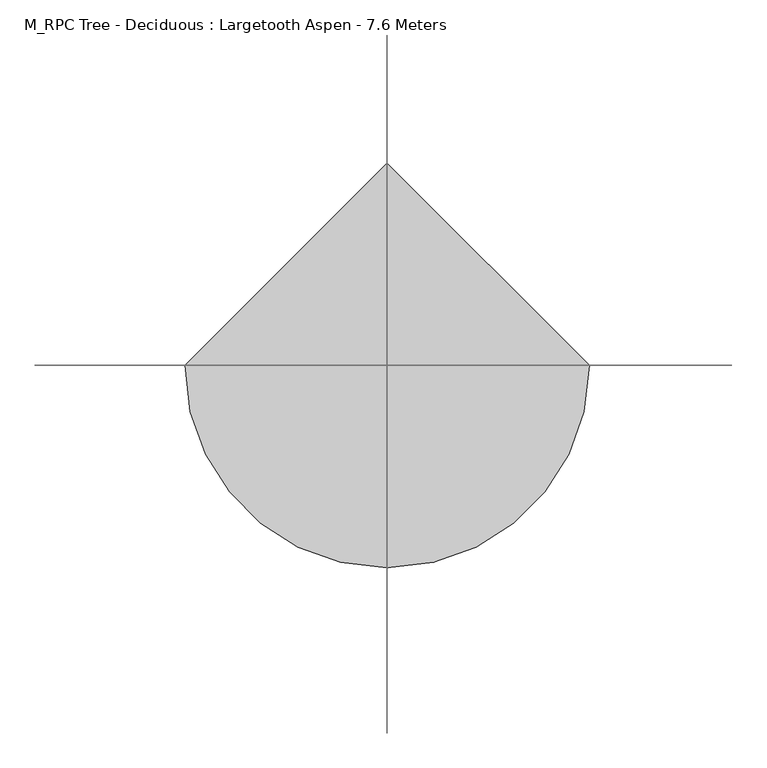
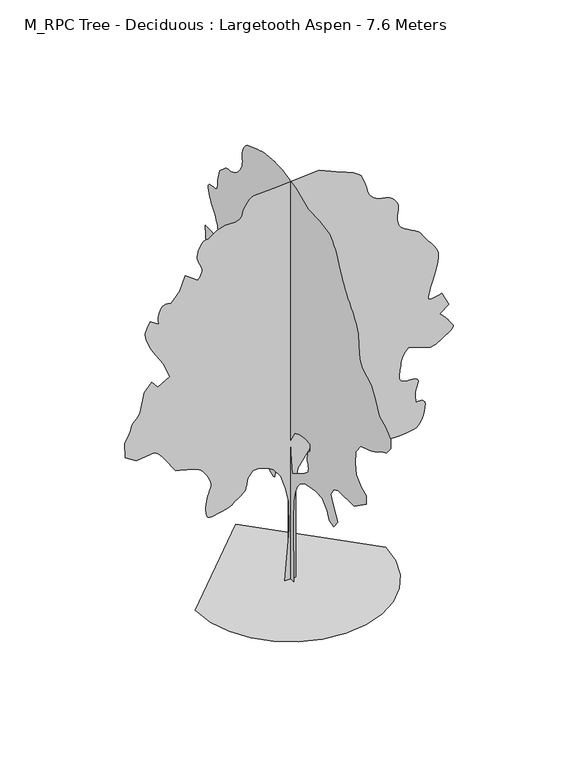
"""IFC4 building model written with IfcOpenShell, lengths in millimetres: geographic element geometry, M_RPC Tree - Deciduous : Largetooth Aspen - 7.6 Meters."""

from ifc_helpers import new_model, si_unit, origin, place, context, project, spatial, triangles, source, transform, mapped, element, save


def m_rpc_tree_deciduous_largetooth_aspen_7_6_meters_7a32e79d(model_context):
    return source(origin(), model_context, "Body", "Tessellation", [
        triangles([(92.8617737, 0.000406, 0.005513), (-103.915959, 0.000406, 0.005513), (-22.8901635, 0.0003494, 949.168154), (-34.4652064, 0.0003176, 1481.626133), (-92.3406663, 0.0003011, 1759.4311237), (-173.3674883, 0.0002866, 2002.5093098), (-300.6937099, 0.0002762, 2176.1362118), (-404.8693279, 0.0002728, 2234.0127663), (-566.9214277, 0.0002694, 2291.8891754), (-682.6743914, 0.0002694, 2291.8891754), (-763.7004776, 0.0002762, 2176.1362118), (-798.427355, 0.0002852, 2025.6589142), (-801.2950579, 0.0002863, 2008.1460297), (-806.4934324, 0.0002874, 1989.7185207), (-816.3455927, 0.0002886, 1969.4722275), (-833.1871519, 0.0002899, 1946.489764), (-859.3387533, 0.0002915, 1919.8644997), (-897.1360102, 0.0002934, 1888.6816647), (-948.9046526, 0.0002956, 1852.0320122), (-998.3097038, 0.0002977, 1817.003627), (-1032.3247061, 0.0002993, 1790.0718407), (-1058.2431822, 0.0003005, 1769.4200489), (-1083.3510246, 0.0003015, 1753.2220551), (-1114.9365967, 0.0003023, 1739.6560226), (-1160.2933485, 0.000303, 1726.8980804), (-1226.7072453, 0.0003038, 1713.1294441), (-1299.8367931, 0.0003048, 1697.5064152), (-1361.0192505, 0.0003056, 1683.0943588), (-1411.0653236, 0.0003062, 1673.9516029), (-1450.7854282, 0.0003062, 1674.1187439), (-1480.9902706, 0.0003054, 1687.6517841), (-1502.4856155, 0.0003035, 1718.5964069), (-1516.0869656, 0.0003004, 1771.0059986), (-1522.0251205, 0.0002967, 1833.4045155), (-1521.0802654, 0.0002932, 1891.7521168), (-1514.8710514, 0.00029, 1946.2541679), (-1505.0164204, 0.0002869, 1997.1108021), (-1493.1376396, 0.0002841, 2044.5246231), (-1480.8535057, 0.0002815, 2088.6983803), (-1469.7852859, 0.000279, 2129.8371483), (-1458.1775642, 0.0002769, 2165.8103886), (-1444.9485752, 0.000275, 2196.5194153), (-1432.7328964, 0.0002733, 2225.2042923), (-1424.1600185, 0.0002715, 2255.1052288), (-1421.8648098, 0.0002695, 2289.4596725), (-1428.479377, 0.000267, 2331.5079781), (-1446.6358269, 0.0002638, 2384.4900639), (-1473.3978561, 0.0002604, 2441.7913628), (-1503.3976238, 0.0002573, 2494.2338013), (-1535.6266159, 0.0002545, 2541.2094223), (-1569.0690514, 0.0002521, 2582.1229134), (-1602.7142361, 0.00025, 2616.3228607), (-1635.5487144, 0.0002484, 2643.2520309), (-1666.5644085, 0.0002473, 2662.3026123), (-1701.7269424, 0.0002464, 2677.1732162), (-1746.6125748, 0.0002455, 2692.0694), (-1799.5946606, 0.0002446, 2706.940004), (-1859.0570194, 0.0002437, 2721.8358971), (-1923.3782387, 0.0002428, 2736.706501), (-1990.9396671, 0.000242, 2751.5773956), (-2060.1198921, 0.0002411, 2766.4732887), (-2256.8962532, 0.0002238, 3055.8556252), (-2301.7818855, 0.0002202, 3116.5289566), (-2338.160479, 0.0002175, 3161.4195305), (-2367.4508423, 0.0002156, 3193.1367805), (-2391.0741096, 0.0002144, 3214.3154297), (-2410.4440029, 0.0002136, 3227.61549), (-2426.9816563, 0.0002131, 3235.6461044), (-2442.1006462, 0.0002128, 3241.041996), (-2766.1945267, 0.0002148, 3206.3353935), (-2962.9836777, 0.0002073, 3333.6607613), (-2974.5611687, 0.0001914, 3599.8884064), (-2952.3436295, 0.000189, 3639.5351143), (-2930.8612198, 0.0001867, 3678.9789276), (-2910.7717484, 0.0001843, 3718.0431129), (-2892.8103447, 0.0001821, 3756.473616), (-2877.7118477, 0.0001798, 3794.0937035), (-2866.1343567, 0.0001776, 3830.70019), (-2858.8132919, 0.0001755, 3866.1160515), (-2847.3878265, 0.0001735, 3899.5814507), (-2825.6772331, 0.0001716, 3931.2481224), (-2797.4559906, 0.0001698, 3962.0787987), (-2766.6000252, 0.0001679, 3993.137368), (-2736.9852631, 0.000166, 4025.3865623), (-2712.4120537, 0.000164, 4059.8905609), (-2696.7560326, 0.0001617, 4097.611805), (-2627.2919586, 0.000141, 4444.881015), (-2488.4021805, 0.0001321, 4595.3354942), (-2384.2240917, 0.0001396, 4468.0101265), (-2164.2955101, 0.0001327, 4583.7835831), (-2280.0484737, 0.0001155, 4873.1406303), (-2465.2501053, 9.82e-05, 5162.5226761), (-2487.5231644, 9.58e-05, 5203.6643509), (-2513.0364326, 9.27e-05, 5254.9385468), (-2539.3601166, 8.93e-05, 5312.268187), (-2564.0600624, 8.58e-05, 5371.6238663), (-2584.7067673, 8.24e-05, 5428.9535065), (-2598.8934013, 7.93e-05, 5480.2277023), (-2604.1628471, 7.69e-05, 5521.3693771), (-2601.4519661, 7.48e-05, 5555.7463486), (-2593.9027176, 7.28e-05, 5589.5413788), (-2582.2746483, 7.08e-05, 5622.8038834), (-2567.4293335, 6.89e-05, 5655.6611801), (-2550.1521904, 6.69e-05, 5688.2394241), (-2531.2585762, 6.5e-05, 5720.5903564), (-2511.5516396, 6.31e-05, 5752.8651306), (-2361.0744873, 6.93e-05, 5648.6941635), (-2365.8675087, 6.73e-05, 5681.019516), (-2369.6472198, 6.54e-05, 5713.8518143), (-2371.4003105, 6.34e-05, 5747.6968414), (-2370.118412, 6.13e-05, 5783.0621246), (-2364.7857433, 5.9e-05, 5820.4540283), (-2354.391465, 5.67e-05, 5860.3794983), (-2337.9248829, 5.41e-05, 5903.344899), (-2316.394075, 5.19e-05, 5940.9141174), (-2291.8258072, 5.04e-05, 5965.7155106), (-2264.7268799, 4.95e-05, 5979.8768555), (-2235.6036575, 4.92e-05, 5985.5515091), (-2204.9604698, 4.92e-05, 5984.8422501), (-2173.3064426, 4.95e-05, 5979.8768555), (-2141.1459057, 5e-05, 5972.7836838), (-1990.6686081, 3.96e-05, 6146.4178528), (-1886.4929901, 2.44e-05, 6401.0685883), (-1666.5644085, 3.41e-05, 6239.0110382), (-1644.4939533, 3.23e-05, 6268.8284042), (-1623.9409927, 3.05e-05, 6298.823085), (-1606.4256374, 2.87e-05, 6329.2229736), (-1593.4675621, 2.69e-05, 6360.2309647), (-1586.584552, 2.5e-05, 6392.0749512), (-1587.2913403, 2.3e-05, 6424.9066681), (-1597.1131245, 2.1e-05, 6458.9551712), (-1613.1085144, 1.89e-05, 6493.7885101), (-1630.1173599, 1.68e-05, 6529.2043716), (-1646.3154991, 1.46e-05, 6565.8614365), (-1659.8813862, 1.23e-05, 6604.3428085), (-1668.993766, 9.9e-06, 6645.2310104), (-1671.8286221, 7.3e-06, 6689.1585617), (-1666.5644085, 4.4e-06, 6736.759726), (-1653.9432312, 1.5e-06, 6785.3747818), (-1636.4607227, -1.2e-06, 6830.974324), (-1614.9300602, -3.6e-06, 6871.9131042), (-1590.1616592, -5.7e-06, 6906.5691284), (-1562.9612846, -7.3e-06, 6933.3209839), (-1534.1394974, -8.3e-06, 6950.5728378), (-1504.512236, -8.7e-06, 6956.6782791), (-1471.3382435, -9.2e-06, 6965.0132355), (-1431.8891979, -1.05e-05, 6986.521225), (-1386.9707188, -1.22e-05, 7015.9078033), (-1337.3959831, -1.41e-05, 7047.9291046), (-1283.9756973, -1.59e-05, 7077.315683), (-1227.5178062, -1.72e-05, 7098.8236725), (-1168.8306908, -1.77e-05, 7107.1580475), (-1109.0314339, -1.76e-05, 7106.8289978), (-1050.4481638, -1.77e-05, 7107.2847839), (-995.7104439, -1.79e-05, 7110.8060806), (-947.4530697, -1.84e-05, 7119.5718246), (-908.3055319, -1.94e-05, 7135.8353668), (-880.9024807, -2.09e-05, 7161.8273849), (-867.8760956, -2.32e-05, 7199.7512329), (-856.9422426, -2.61e-05, 7248.5941818), (-835.6824938, -2.93e-05, 7302.6809967), (-806.5264246, -3.26e-05, 7357.4009125), (-771.9008492, -3.56e-05, 7408.0420074), (-734.2403572, -3.81e-05, 7449.9940979), (-695.9718355, -3.98e-05, 7478.5696793), (-659.5247869, -4.04e-05, 7489.1341507), (-323.8458215, -4.18e-05, 7512.2885513), (509.5693688, -4.53e-05, 7570.1751343), (926.2744205, -3.42e-05, 7384.9631836), (995.3532709, -3.26e-05, 7357.5526474), (1062.2079111, -3.09e-05, 7329.4578506), (1124.6038118, -2.92e-05, 7299.9195374), (1180.3219225, -2.73e-05, 7268.2778641), (1227.1277138, -2.52e-05, 7233.7741562), (1262.7970482, -2.29e-05, 7195.7485703), (1285.1055702, -2.04e-05, 7153.4674301), (1299.9533558, -1.79e-05, 7111.9461273), (1314.5985374, -1.58e-05, 7075.1117477), (1328.8409821, -1.37e-05, 7040.4813034), (1342.4753242, -1.16e-05, 7005.6479645), (1355.2991055, -9.4e-06, 6968.1799026), (1367.1094311, -6.8e-06, 6925.6702881), (1377.7063133, -3.9e-06, 6875.662294), (1393.5345623, -8e-07, 6823.9573105), (1419.2834267, 2e-06, 6778.1292938), (1452.117905, 4.3e-06, 6738.3811386), (1489.2059029, 6.3e-06, 6704.890741), (1527.709948, 7.9e-06, 6677.9109924), (1564.7979458, 9.1e-06, 6657.5936279), (1597.6348949, 9.9e-06, 6644.1415421), (1628.0070236, 1.04e-05, 6636.0856384), (1659.1872425, 1.07e-05, 6630.6638763), (1690.5726814, 1.1e-05, 6626.2310074), (1721.5527672, 1.13e-05, 6621.2150345), (1751.5195427, 1.17e-05, 6613.9439667), (1779.8675217, 1.24e-05, 6602.8481323), (1805.9862762, 1.34e-05, 6586.2799576), (1831.2638031, 1.47e-05, 6563.7586578), (1856.5388592, 1.63e-05, 6536.6015945), (1880.3977226, 1.82e-05, 6505.7964981), (1901.4218754, 2.02e-05, 6472.3560974), (1918.1949795, 2.23e-05, 6437.2948654), (1929.2986622, 2.44e-05, 6401.625531), (1933.3139694, 2.65e-05, 6366.3364059), (1929.8053173, 2.9e-05, 6325.1191544), (1922.245895, 3.2e-05, 6273.1351181), (1915.0916805, 3.56e-05, 6213.8805954), (1912.7964718, 3.93e-05, 6150.775145), (1919.8163921, 4.31e-05, 6087.2644867), (1940.6048035, 4.67e-05, 6026.7937592), (1979.615649, 5e-05, 5972.7836838), (2034.2165314, 5.26e-05, 5927.5631882), (2096.1082478, 5.5e-05, 5888.8289246), (2161.2403187, 5.71e-05, 5853.1340103), (2225.5615379, 5.92e-05, 5817.0088898), (2285.0238968, 6.16e-05, 5777.0584213), (2335.5764797, 6.44e-05, 5729.8118866), (2373.1711327, 6.79e-05, 5671.8491455), (2411.6423309, 7.17e-05, 5607.2240204), (2462.6659607, 7.56e-05, 5541.7878983), (2518.9567108, 7.96e-05, 5474.7303635), (2573.2307236, 8.38e-05, 5405.2415817), (2618.1721664, 8.81e-05, 5332.5093933), (2646.5201454, 9.27e-05, 5255.7495438), (2650.9785942, 9.76e-05, 5174.1004578), (2634.6386032, 0.0001032, 5079.7841217), (2608.190799, 0.0001097, 4970.8762344), (2575.6628426, 0.0001165, 4855.508567), (2541.0826859, 0.0001233, 4741.7367325), (2508.5625778, 0.0001295, 4637.6927925), (2482.1043091, 0.0001347, 4551.4835197), (2465.7718758, 0.0001383, 4491.1648178), (2464.9611694, 0.0001404, 4454.9635391), (2480.5538223, 0.0001417, 4433.9369156), (2509.8113388, 0.0001422, 4425.5769608), (2550.0001648, 0.0001421, 4427.3248192), (2598.3867462, 0.0001415, 4436.6727951), (2652.2453773, 0.0001407, 4451.0876129), (2708.839888, 0.0001396, 4468.0101265), (2836.1652557, 0.0001548, 4213.3596817), (2674.1332855, 0.0001624, 4086.0346046), (2698.8841003, 0.0001637, 4063.6400414), (2723.4573097, 0.0001651, 4040.7132431), (2747.6253113, 0.0001665, 4016.7987144), (2771.1852104, 0.0001681, 3991.3386406), (2793.9346939, 0.0001697, 3963.8775261), (2815.6705765, 0.0001715, 3933.8828453), (2836.1652557, 0.0001735, 3900.8482338), (2858.1037422, 0.0001754, 3868.6749069), (2881.2584335, 0.000177, 3840.554821), (2901.1705902, 0.0001786, 3814.8921432), (2913.3811821, 0.0001801, 3790.0148827), (2913.4570496, 0.0001816, 3764.3269157), (2896.9144547, 0.0001833, 3736.2324097), (2859.3199471, 0.0001852, 3704.0590828), (2604.6695023, 0.0001955, 3530.4246231), (2500.4962097, 0.0001962, 3518.8471321), (2118.5182171, 0.0001886, 3646.1724998), (2091.3836815, 0.0001903, 3618.7110947), (2065.163625, 0.000192, 3590.1352226), (2040.7651142, 0.0001938, 3559.3298355), (2019.0975414, 0.0001958, 3525.1551773), (2001.0780018, 0.0001981, 3486.5726486), (1987.6134167, 0.0002008, 3442.3913338), (1979.615649, 0.0002038, 3391.5220551), (1974.0473843, 0.0002068, 3342.1474525), (1967.6684132, 0.0002092, 3301.2848305), (1961.0868382, 0.0002113, 3266.096862), (1954.9106163, 0.0002132, 3233.7209312), (1949.7477047, 0.0002151, 3201.3702896), (1946.2035896, 0.0002172, 3166.1567413), (1944.888699, 0.0002197, 3125.2941193), (1953.8643139, 0.000222, 3086.7368797), (1977.0163891, 0.0002236, 3059.0981598), (2008.6704163, 0.0002247, 3040.5542336), (2043.1591541, 0.0002254, 3029.3316628), (2074.8131813, 0.0002257, 3023.5555618), (2097.9652565, 0.0002259, 3021.4277847), (2106.9408714, 0.0002259, 3021.1237335), (2119.5973663, 0.0002258, 3022.0103073), (2151.4869896, 0.0002258, 3022.4663841), (2193.5021576, 0.000226, 3019.2997169), (2236.5307812, 0.0002266, 3009.242482), (2271.4578644, 0.0002278, 2989.0771431), (2289.1759689, 0.0002298, 2955.5102966), (2280.5702442, 0.0002328, 2905.3758568), (2259.8146797, 0.0002362, 2847.8691925), (2246.3500946, 0.0002394, 2794.0105614), (2238.9578133, 0.0002425, 2743.191861), (2236.4270084, 0.0002453, 2694.7799904), (2237.5416206, 0.0002481, 2648.2174255), (2241.0857357, 0.0002508, 2602.8707748), (2245.8434395, 0.0002535, 2558.1069374), (2285.1910378, 0.0002532, 2562.540097), (2322.5171024, 0.0002531, 2563.730722), (2355.7899261, 0.0002535, 2558.4106979), (2382.9903008, 0.0002544, 2543.4133575), (2402.0916058, 0.000256, 2515.4278564), (2411.0672207, 0.0002587, 2471.2540993), (2407.8954666, 0.0002625, 2407.6396683), (2395.1731327, 0.0002668, 2334.9507912), (2376.983836, 0.0002708, 2266.9155544), (2353.5301804, 0.0002745, 2205.3632069), (2325.0124443, 0.0002777, 2152.110062), (2291.638464, 0.0002803, 2108.9801365), (2253.6054657, 0.0002821, 2077.7999176), (2211.1189602, 0.0002832, 2060.3858643), (2171.2620907, 0.0002837, 2051.7801395), (2137.4826118, 0.000284, 2045.4011684), (2104.5113686, 0.0002843, 2040.64361), (2067.0864727, 0.0002845, 2036.8967457), (2019.9412399, 0.0002847, 2033.5578506), (1957.8137821, 0.000285, 2030.0137356), (1875.4374149, 0.0002852, 2025.6589142), (1785.9069786, 0.0002851, 2027.1105698), (1704.880965, 0.0002844, 2040.1039627), (1630.9407108, 0.000283, 2062.7139198), (1562.6724941, 0.0002812, 2093.0175934), (1498.6551807, 0.0002791, 2129.0947517), (1437.4727234, 0.0002767, 2169.0176056), (1377.7063133, 0.0002742, 2210.8631618), (1123.0508543, 0.0002597, 2453.9412025), (856.8231365, 0.0002528, 2569.6841377), (544.2937391, 0.0002542, 2546.5547356), (393.8164052, 0.0002611, 2430.7917435), (289.6407872, 0.00027, 2280.3144459), (127.5871523, 0.0002838, 2048.8109894), (92.8617737, 0.0003011, 1759.4311237), (92.8617737, 0.0003383, 1134.3723289), (-0.0023646, 90.6053344, 1.1e-05), (-0.0023646, -94.5971056, 0.0), (-0.0023646, -83.0220672, 1157.5168465), (-0.0023646, -94.5971056, 1527.9227257), (-0.0023646, -140.8980313, 1724.6992321), (-0.0023646, -210.3490428, 1875.1765297), (-0.0023646, -302.9508941, 1990.9294933), (-0.0023646, -441.853444, 2071.9555069), (-0.0023646, -557.6038642, 2095.1051113), (-0.0023646, -789.1072117, 2141.4067909), (-0.0023646, -985.8861889, 2129.8320614), (-0.0023646, -1136.3635592, 1979.3547638), (-0.0023646, -1205.8147705, 1840.4521957), (-0.0023646, -1333.1399929, 1794.1505161), (-0.0023646, -1472.042561, 1967.7774181), (-0.0023646, -1321.5652634, 2199.2833454), (-0.0023646, -1252.1139793, 2361.3353725), (-0.0023646, -1333.1399929, 2500.2354698), (-0.0023646, -1483.6172905, 2569.6841377), (-0.0023646, -1969.7736626, 2569.6841377), (-0.0023646, -2351.7542713, 2835.9117828), (-0.0023646, -2351.7542713, 2997.9690422), (-0.0023646, -2189.7022442, 3067.4075363), (-0.0023646, -2039.2249466, 3206.3101044), (-0.0023646, -2004.5006126, 3403.0992554), (-0.0023646, -2027.6500717, 3634.5950089), (-0.0023646, -2178.1273693, 3831.3841599), (-0.0023646, -2444.3551598, 3923.9773453), (-0.0023646, -2488.9367409, 3941.4068047), (-0.0023646, -2533.110498, 3959.1147354), (-0.0023646, -2576.4735489, 3977.4307686), (-0.0023646, -2618.6279526, 3996.6839539), (-0.0023646, -2659.1612343, 4017.1280548), (-0.0023646, -2697.6678955, 4039.0921211), (-0.0023646, -2733.7427284, 4062.8799133), (-0.0023646, -2768.4493309, 4086.3386559), (-0.0023646, -2803.1812225, 4107.3652794), (-0.0023646, -2837.9131142, 4126.3652824), (-0.0023646, -2872.6450058, 4143.7438728), (-0.0023646, -2907.351899, 4159.9065491), (-0.0023646, -2942.0837906, 4175.258519), (-0.0023646, -2976.8156822, 4190.2052811), (-0.0023646, -3104.14105, 4352.2622498), (-0.0023646, -3104.14105, 4514.3195091), (-0.0023646, -2953.6609909, 4653.2220772), (-0.0023646, -2756.8971291, 4757.3927536), (-0.0023646, -2629.5467628, 5000.4657074), (-0.0023646, -2502.234185, 5185.6776581), (-0.0023646, -2224.4291943, 5336.1574265), (-0.0023646, -2143.4030354, 5463.4827942), (-0.0023646, -2120.2509602, 5718.1329483), (-0.0023646, -2097.1013557, 5926.4743011), (-0.0023646, -2072.264645, 5978.4327576), (-0.0023646, -2047.225185, 6029.4540619), (-0.0023646, -2021.7779011, 6078.651059), (-0.0023646, -1995.7251308, 6125.1127579), (-0.0023646, -1968.8641251, 6167.9514221), (-0.0023646, -1940.9873383, 6206.2043198), (-0.0023646, -1911.8997242, 6239.0110382), (-0.0023646, -1875.8225658, 6277.7964615), (-0.0023646, -1830.2327614, 6330.9455429), (-0.0023646, -1779.7788643, 6393.0121033), (-0.0023646, -1729.1274502, 6458.4988037), (-0.0023646, -1682.9270725, 6521.9844635), (-0.0023646, -1645.83922, 6577.9705811), (-0.0023646, -1622.5198586, 6620.9865601), (-0.0023646, -1605.6807701, 6657.1372604), (-0.0023646, -1585.6016178, 6696.1255783), (-0.0023646, -1563.2930958, 6737.9253525), (-0.0023646, -1539.7736012, 6782.5877426), (-0.0023646, -1516.0490318, 6830.0627518), (-0.0023646, -1493.1350235, 6880.3742157), (-0.0023646, -1472.042561, 6933.5238785), (-0.0023646, -1448.8245014, 6986.749118), (-0.0023646, -1419.5316673, 7037.5425293), (-0.0023646, -1385.1772236, 7086.3087387), (-0.0023646, -1346.7743351, 7133.4541168), (-0.0023646, -1305.3316612, 7179.3832901), (-0.0023646, -1261.8673084, 7224.5020477), (-0.0023646, -1217.3895727, 7269.2155975), (-0.0023646, -893.2828297, 7327.0766006), (-0.0023646, -546.029062, 7338.653801), (-0.0023646, -175.623419, 7500.711351), (-0.0023646, 264.2314734, 7593.3045364), (-0.0023646, 323.6937959, 7595.7363647), (-0.0023646, 382.7508379, 7597.8647232), (-0.0023646, 440.9996807, 7599.3843979), (-0.0023646, 498.0300296, 7599.9925003), (-0.0023646, 553.4441254, 7599.3843979), (-0.0023646, 606.831528, 7597.2566208), (-0.0023646, 657.7895004, 7593.3045364), (-0.0023646, 706.7891985, 7588.2379852), (-0.0023646, 754.9781902, 7582.5883301), (-0.0023646, 802.9670488, 7575.698053), (-0.0023646, 851.3612606, 7566.9828873), (-0.0023646, 900.7663118, 7555.8620544), (-0.0023646, 951.7900869, 7541.6751297), (-0.0023646, 1005.0433044, 7523.8657516), (-0.0023646, 1340.7248497, 7408.1181656), (-0.0023646, 1370.3545818, 7383.1138779), (-0.0023646, 1399.173753, 7356.8689682), (-0.0023646, 1426.3741276, 7328.2166473), (-0.0023646, 1451.1425285, 7295.9418732), (-0.0023646, 1472.6733364, 7258.7778625), (-0.0023646, 1490.1558449, 7215.5595703), (-0.0023646, 1502.7768768, 7165.019632), (-0.0023646, 1507.1292274, 7116.7342072), (-0.0023646, 1503.5851124, 7077.7714691), (-0.0023646, 1497.0060081, 7043.2421814), (-0.0023646, 1492.2458336, 7008.3076859), (-0.0023646, 1494.1711521, 6968.1293243), (-0.0023646, 1507.6358826, 6917.7916992), (-0.0023646, 1537.5012108, 6852.5078934), (-0.0023646, 1578.4019119, 6786.1851974), (-0.0023646, 1620.9238804, 6734.4546341), (-0.0023646, 1663.8485859, 6694.8587952), (-0.0023646, 1705.9652012, 6664.9908508), (-0.0023646, 1746.0576668, 6642.4189728), (-0.0023646, 1782.9075977, 6624.7107513), (-0.0023646, 1815.3063469, 6609.4093597), (-0.0023646, 1845.0703732, 6598.3135254), (-0.0023646, 1874.8345448, 6592.8923447), (-0.0023646, 1904.598571, 6590.2826202), (-0.0023646, 1934.3652134, 6587.699057), (-0.0023646, 1964.129385, 6582.2522964), (-0.0023646, 1993.8935566, 6571.1558807), (-0.0023646, 2023.6575829, 6551.5483566), (-0.0023646, 2197.2869556, 6401.0685883), (-0.0023646, 2266.7357689, 6181.1500351), (-0.0023646, 2264.4760231, 6146.5445892), (-0.0023646, 2263.5310226, 6112.7751389), (-0.0023646, 2265.2182743, 6080.6021027), (-0.0023646, 2270.8549942, 6050.8858932), (-0.0023646, 2281.7533115, 6024.3875107), (-0.0023646, 2299.23582, 6001.9417877), (-0.0023646, 2324.612178, 5984.3608841), (-0.0023646, 2359.9116222, 5974.3033585), (-0.0023646, 2402.9047829, 5970.5285889), (-0.0023646, 2448.5301956, 5967.9700241), (-0.0023646, 2491.7284309, 5961.5605316), (-0.0023646, 2527.4306122, 5946.2341415), (-0.0023646, 2550.5826874, 5916.9237213), (-0.0023646, 2556.1056061, 5868.6127167), (-0.0023646, 2547.4416, 5812.448703), (-0.0023646, 2532.0896301, 5762.3651321), (-0.0023646, 2511.1641632, 5717.3475311), (-0.0023646, 2485.7878052, 5676.3837524), (-0.0023646, 2457.0700813, 5638.4599045), (-0.0023646, 2426.1228424, 5602.562677), (-0.0023646, 2394.0634621, 5567.6531799), (-0.0023646, 2369.3610455, 5525.4987762), (-0.0023646, 2345.2664406, 5483.4705276), (-0.0023646, 2322.3854244, 5441.6201752), (-0.0023646, 2301.3284248, 5400.0732925), (-0.0023646, 2282.698312, 5358.9321991), (-0.0023646, 2267.1081299, 5318.2974701), (-0.0023646, 2255.160894, 5278.2708435), (-0.0023646, 2248.9518253, 5240.6254669), (-0.0023646, 2249.4254883, 5206.6025436), (-0.0023646, 2255.4649452, 5175.6201324), (-0.0023646, 2265.9605255, 5147.0695496), (-0.0023646, 2279.797617, 5120.3426926), (-0.0023646, 2295.861462, 5094.8320404), (-0.0023646, 2313.0374485, 5069.9294907), (-0.0023646, 2463.5147461, 5093.0844727), (-0.0023646, 2648.7240807, 5093.0844727), (-0.0023646, 2625.5693893, 4757.3927536), (-0.0023646, 2417.2130665, 4398.5716324), (-0.0023646, 2409.7574169, 4356.4422272), (-0.0023646, 2402.1979946, 4314.642453), (-0.0023646, 2394.4358231, 4273.4252014), (-0.0023646, 2386.3697456, 4233.1451019), (-0.0023646, 2377.898315, 4194.0559181), (-0.0023646, 2368.9227001, 4156.486409), (-0.0023646, 2359.3391281, 4120.7664963), (-0.0023646, 2344.9953815, 4082.1586784), (-0.0023646, 2323.9712288, 4037.2681046), (-0.0023646, 2299.5044083, 3988.3492882), (-0.0023646, 2274.8373093, 3937.5814568), (-0.0023646, 2253.2051994, 3887.2441223), (-0.0023646, 2237.8507587, 3839.5162216), (-0.0023646, 2232.0114349, 3796.6522682), (-0.0023646, 2236.7360012, 3758.6522621), (-0.0023646, 2249.9651356, 3723.6921867), (-0.0023646, 2270.279884, 3691.2656776), (-0.0023646, 2296.2641991, 3660.865789), (-0.0023646, 2326.5020336, 3631.9602859), (-0.0023646, 2359.5747242, 3604.0936729), (-0.0023646, 2394.0634621, 3576.7337151), (-0.0023646, 2706.5853745, 3646.1724998), (-0.0023646, 2723.8372284, 3596.6458717), (-0.0023646, 2740.3798233, 3547.4991623), (-0.0023646, 2755.5039001, 3499.1884483), (-0.0023646, 2768.4746201, 3452.0686501), (-0.0023646, 2778.6333023, 3406.5699738), (-0.0023646, 2785.245108, 3363.0979179), (-0.0023646, 2787.6266487, 3322.0832703), (-0.0023646, 2774.199852, 3282.9940865), (-0.0023646, 2739.6958534, 3244.7153183), (-0.0023646, 2692.8545265, 3206.6647339), (-0.0023646, 2642.3654572, 3168.1836525), (-0.0023646, 2596.9426483, 3128.7142593), (-0.0023646, 2565.3015564, 3087.5981644), (-0.0023646, 2556.1056061, 3044.2784248), (-0.0023646, 2564.4399811, 3002.6556747), (-0.0023646, 2578.8547989, 2966.5049744), (-0.0023646, 2598.3361679, 2934.9397499), (-0.0023646, 2621.8454887, 2906.9969788), (-0.0023646, 2648.4200294, 2881.7903778), (-0.0023646, 2676.9959015, 2858.3825043), (-0.0023646, 2706.5853745, 2835.9117828), (-0.0023646, 2776.0491577, 2604.4160294), (-0.0023646, 2709.3974121, 2602.1106468), (-0.0023646, 2644.6708397, 2600.945311), (-0.0023646, 2583.7949043, 2601.984201), (-0.0023646, 2528.6796638, 2606.3667824), (-0.0023646, 2481.2656975, 2615.2081032), (-0.0023646, 2443.468586, 2629.6226303), (-0.0023646, 2417.2130665, 2650.725412), (-0.0023646, 2391.9710026, 2676.8694557), (-0.0023646, 2357.0109272, 2705.4453278), (-0.0023646, 2313.9494568, 2736.0478203), (-0.0023646, 2264.407568, 2768.2973053), (-0.0023646, 2210.0068188, 2801.7371246), (-0.0023646, 2152.3684765, 2835.987941), (-0.0023646, 2093.1088669, 2870.6436745), (-0.0023646, 2090.6465172, 2833.3785072), (-0.0023646, 2088.2828533, 2795.8345779), (-0.0023646, 2086.1244095, 2757.6572571), (-0.0023646, 2084.2675461, 2718.5680733), (-0.0023646, 2082.8158905, 2678.2879738), (-0.0023646, 2081.8710354, 2636.4626198), (-0.0023646, 2081.5341373, 2592.838829), (-0.0023646, 2079.9481876, 2547.390731), (-0.0023646, 2074.514217, 2502.7332825), (-0.0023646, 2064.2212406, 2462.5418404), (-0.0023646, 2048.0560936, 2430.4471424), (-0.0023646, 2025.0077911, 2410.0995472), (-0.0023646, 1994.0631683, 2405.1366234), (-0.0023646, 1954.2062988, 2419.2093109), (-0.0023646, 1909.2219807, 2445.3635284), (-0.0023646, 1863.6321762, 2473.9469582), (-0.0023646, 1817.5331005, 2504.5546829), (-0.0023646, 1771.028817, 2536.7762627), (-0.0023646, 1724.222953, 2570.216082), (-0.0023646, 1677.2144852, 2604.4921875), (-0.0023646, 1630.1020992, 2639.147921), (-0.0023646, 1352.2995792, 2720.1639061), (-0.0023646, 1074.4945158, 2627.5707207), (-0.0023646, 900.8676138, 2419.2093109), (-0.0023646, 923.2420475, 2389.5794334), (-0.0023646, 945.9203871, 2360.7602623), (-0.0023646, 969.204213, 2333.5598877), (-0.0023646, 993.4000471, 2308.7916321), (-0.0023646, 1018.8119408, 2287.2608242), (-0.0023646, 1045.7412563, 2269.7783157), (-0.0023646, 1074.4945158, 2257.1572838), (-0.0023646, 1101.897567, 2244.8731499), (-0.0023646, 1125.0471714, 2228.3381126), (-0.0023646, 1144.6551315, 2208.258815), (-0.0023646, 1161.4257648, 2185.344952), (-0.0023646, 1176.07349, 2160.305492), (-0.0023646, 1189.3025517, 2133.8473686), (-0.0023646, 1201.8222816, 2106.6798409), (-0.0023646, 1169.4919149, 2099.1888737), (-0.0023646, 1136.6574366, 2091.3938553), (-0.0023646, 1102.8070318, 2082.9907345), (-0.0023646, 1067.4417486, 2073.6756054), (-0.0023646, 1030.0497723, 2063.1471783), (-0.0023646, 990.1269911, 2051.0986404), (-0.0023646, 947.1668226, 2037.2287022), (-0.0023646, 904.2091249, 2020.3237747), (-0.0023646, 864.2863438, 1999.7708141), (-0.0023646, 826.8943674, 1976.1830097), (-0.0023646, 791.5265408, 1950.1630863), (-0.0023646, 757.6786795, 1922.3217625), (-0.0023646, 724.8442011, 1893.2645245), (-0.0023646, 692.5138344, 1863.6018002), (-0.0023646, 692.5138344, 1701.5496277), (-0.0023646, 650.5998957, 1674.7216141), (-0.0023646, 610.2059223, 1650.6246838), (-0.0023646, 572.8469018, 1631.9970417), (-0.0023646, 540.0453429, 1621.5699165), (-0.0023646, 513.3187039, 1622.0765717), (-0.0023646, 494.1844431, 1636.2505611), (-0.0023646, 484.160055, 1666.8252937), (-0.0023646, 479.2682024, 1701.4811726), (-0.0023646, 474.7791232, 1728.6487003), (-0.0023646, 471.1007504, 1752.1706657), (-0.0023646, 468.638328, 1775.8927643), (-0.0023646, 467.7947385, 1803.6682491), (-0.0023646, 468.9752624, 1839.3374382), (-0.0023646, 472.5852528, 1886.7512592), (-0.0023646, 475.5214108, 1938.6212036), (-0.0023646, 474.812079, 1985.6298168), (-0.0023646, 471.0677945, 2028.5899853), (-0.0023646, 464.8915363, 2068.3100899), (-0.0023646, 456.893805, 2105.6006916), (-0.0023646, 447.6800869, 2141.2724968), (-0.0023646, 437.8608825, 2176.1311249), (-0.0023646, 241.0823958, 2187.7059998), (-0.0023646, 136.90626, 1990.9294933), (-0.0023646, 79.030296, 1655.2479481), (-0.0023646, 79.030296, 1226.9681305), (-0.0023646, 79.030296, 590.3344972), (-0.0022449, -48.2969385, 2025.6538273), (-0.0022449, -1.9959556, 2396.0597065), (-0.0022449, 9.5791323, 2615.9935204), (-0.0022449, -129.3229929, 2835.9117828), (-0.0022449, -279.801326, 2905.3758568), (-0.0022449, -453.4282099, 2928.5049683), (-0.0022449, -615.4803097, 2928.5049683), (-0.0022449, -615.4803097, 2789.62798), (-0.0022449, -534.4542598, 2720.1639061), (-0.0022449, -511.3046917, 2558.1069374), (-0.0022449, -521.1568156, 2548.0241226), (-0.0022449, -530.6061298, 2536.9282883), (-0.0022449, -539.2448104, 2523.7927528), (-0.0022449, -546.6699749, 2507.6277512), (-0.0022449, -552.4738358, 2487.4115433), (-0.0022449, -556.2535832, 2462.1366325), (-0.0022449, -557.6038642, 2430.7841858), (-0.0022449, -554.2294335, 2398.4207542), (-0.0022449, -544.7801193, 2370.3109875), (-0.0022449, -530.2691955, 2345.7427197), (-0.0022449, -511.7075014, 2324.0093079), (-0.0022449, -490.1108545, 2304.4038185), (-0.0022449, -466.4875508, 2286.2145218), (-0.0022449, -441.853444, 2268.7320133), (-1707.3661331, 0.0, 0.0031185), (-1662.2297894, -391.2146745, 0.0030952), (-1533.678479, -750.4840605, 0.0030738), (-1332.01012, -1067.5126745, 0.0030549), (-1067.5126745, -1332.01012, 0.0030391), (-750.4840605, -1533.678479, 0.0030271), (-391.2146745, -1662.2297894, 0.0030194), (7.48e-05, -1707.3661331, 0.0030167), (391.2146745, -1662.2297894, 0.0030194), (750.4840605, -1533.678479, 0.0030271), (1067.5126745, -1332.01012, 0.0030391), (1332.01012, -1067.5126745, 0.0030549), (1533.678479, -750.4840605, 0.0030738), (1662.2297894, -391.2146745, 0.0030952), (1707.3661331, 0.0001493, 0.0031185), (-0.0002245, 1707.3661331, 0.0032203)], [[122, 123, 124], [87, 88, 89], [1, 2, 3], [329, 1, 3], [329, 3, 4], [328, 329, 4], [328, 4, 5], [105, 106, 107], [327, 328, 5], [327, 5, 6], [104, 105, 107], [238, 239, 240], [238, 240, 241], [237, 238, 241], [236, 237, 241], [103, 104, 107], [86, 87, 89], [235, 236, 241], [102, 103, 107], [101, 102, 107], [100, 101, 107], [99, 100, 107], [98, 99, 107], [97, 98, 107], [96, 97, 107], [327, 6, 7], [326, 327, 7], [95, 96, 107], [70, 71, 72], [69, 70, 72], [69, 72, 73], [69, 73, 74], [69, 74, 75], [69, 75, 76], [69, 76, 77], [69, 77, 78], [94, 95, 107], [234, 235, 241], [93, 94, 107], [69, 78, 79], [69, 79, 80], [69, 80, 81], [69, 81, 82], [69, 82, 83], [69, 83, 84], [69, 84, 85], [68, 69, 85], [325, 326, 7], [325, 7, 8], [67, 68, 85], [92, 93, 107], [91, 92, 107], [60, 61, 62], [67, 85, 86], [67, 86, 89], [67, 89, 90], [66, 67, 90], [65, 66, 90], [64, 65, 90], [63, 64, 90], [62, 63, 90], [60, 62, 90], [59, 60, 90], [58, 59, 90], [57, 58, 90], [56, 57, 90], [55, 56, 90], [54, 55, 90], [53, 54, 90], [284, 285, 286], [283, 284, 286], [282, 283, 286], [282, 286, 287], [281, 282, 287], [280, 281, 287], [279, 280, 287], [279, 287, 288], [278, 279, 288], [277, 278, 288], [277, 288, 289], [276, 277, 289], [275, 276, 289], [275, 289, 290], [52, 53, 90], [325, 8, 9], [121, 122, 124], [275, 290, 291], [30, 31, 32], [29, 30, 32], [29, 32, 33], [28, 29, 33], [28, 33, 34], [27, 28, 34], [27, 34, 35], [27, 35, 36], [26, 27, 36], [26, 36, 37], [26, 37, 38], [25, 26, 38], [25, 38, 39], [24, 25, 39], [23, 24, 39], [22, 23, 39], [21, 22, 39], [20, 21, 39], [20, 39, 40], [20, 40, 41], [20, 41, 42], [19, 20, 42], [19, 42, 43], [18, 19, 43], [18, 43, 44], [17, 18, 44], [16, 17, 44], [15, 16, 44], [14, 15, 44], [13, 14, 44], [12, 13, 44], [11, 12, 44], [11, 44, 45], [11, 45, 46], [10, 11, 46], [10, 46, 47], [10, 47, 48], [10, 48, 49], [10, 49, 50], [10, 50, 51], [252, 253, 254], [251, 252, 254], [251, 254, 255], [250, 251, 255], [249, 250, 255], [249, 255, 256], [248, 249, 256], [247, 248, 256], [246, 247, 256], [245, 246, 256], [245, 256, 257], [245, 257, 258], [244, 245, 258], [243, 244, 258], [242, 243, 258], [241, 242, 258], [234, 241, 258], [233, 234, 258], [274, 275, 291], [324, 325, 9], [51, 52, 90], [10, 51, 90], [9, 10, 90], [324, 9, 90], [323, 324, 90], [323, 90, 91], [323, 91, 107], [323, 107, 108], [323, 108, 109], [323, 109, 110], [323, 110, 111], [323, 111, 112], [323, 112, 113], [323, 113, 114], [323, 114, 115], [323, 115, 116], [323, 116, 117], [323, 117, 118], [323, 118, 119], [323, 119, 120], [323, 120, 121], [323, 121, 124], [323, 124, 125], [323, 125, 126], [323, 126, 127], [323, 127, 128], [323, 128, 129], [322, 323, 129], [322, 129, 130], [167, 168, 169], [274, 291, 292], [296, 297, 298], [296, 298, 299], [295, 296, 299], [294, 295, 299], [294, 299, 300], [293, 294, 300], [293, 300, 301], [293, 301, 302], [293, 302, 303], [293, 303, 304], [293, 304, 305], [293, 305, 306], [293, 306, 307], [293, 307, 308], [293, 308, 309], [293, 309, 310], [293, 310, 311], [293, 311, 312], [293, 312, 313], [293, 313, 314], [293, 314, 315], [293, 315, 316], [293, 316, 317], [293, 317, 318], [293, 318, 319], [292, 293, 319], [274, 292, 319], [274, 319, 320], [274, 320, 321], [274, 321, 322], [273, 274, 322], [273, 322, 130], [272, 273, 130], [271, 272, 130], [270, 271, 130], [269, 270, 130], [268, 269, 130], [267, 268, 130], [266, 267, 130], [265, 266, 130], [264, 265, 130], [263, 264, 130], [262, 263, 130], [261, 262, 130], [260, 261, 130], [259, 260, 130], [258, 259, 130], [233, 258, 130], [232, 233, 130], [231, 232, 130], [230, 231, 130], [229, 230, 130], [228, 229, 130], [227, 228, 130], [226, 227, 130], [225, 226, 130], [224, 225, 130], [223, 224, 130], [222, 223, 130], [221, 222, 130], [220, 221, 130], [219, 220, 130], [218, 219, 130], [217, 218, 130], [216, 217, 130], [215, 216, 130], [214, 215, 130], [213, 214, 130], [212, 213, 130], [211, 212, 130], [210, 211, 130], [209, 210, 130], [208, 209, 130], [207, 208, 130], [206, 207, 130], [205, 206, 130], [204, 205, 130], [203, 204, 130], [202, 203, 130], [201, 202, 130], [200, 201, 130], [199, 200, 130], [198, 199, 130], [197, 198, 130], [196, 197, 130], [195, 196, 130], [194, 195, 130], [193, 194, 130], [192, 193, 130], [191, 192, 130], [190, 191, 130], [189, 190, 130], [188, 189, 130], [187, 188, 130], [186, 187, 130], [185, 186, 130], [184, 185, 130], [183, 184, 130], [182, 183, 130], [181, 182, 130], [180, 181, 130], [179, 180, 130], [178, 179, 130], [177, 178, 130], [176, 177, 130], [175, 176, 130], [174, 175, 130], [173, 174, 130], [172, 173, 130], [171, 172, 130], [170, 171, 130], [169, 170, 130], [167, 169, 130], [167, 130, 131], [167, 131, 132], [167, 132, 133], [167, 133, 134], [167, 134, 135], [167, 135, 136], [164, 165, 166], [164, 166, 167], [163, 164, 167], [162, 163, 167], [161, 162, 167], [160, 161, 167], [159, 160, 167], [158, 159, 167], [143, 144, 145], [142, 143, 145], [141, 142, 145], [140, 141, 145], [140, 145, 146], [139, 140, 146], [138, 139, 146], [137, 138, 146], [136, 137, 146], [136, 146, 147], [136, 147, 148], [136, 148, 149], [136, 149, 150], [136, 150, 151], [136, 151, 152], [136, 152, 153], [136, 153, 154], [136, 154, 155], [136, 155, 156], [157, 158, 167], [157, 167, 136], [157, 136, 156], [634, 330, 635], [633, 634, 635], [632, 633, 635], [631, 632, 635], [540, 541, 542], [592, 593, 594], [494, 495, 496], [635, 330, 331], [635, 331, 332], [635, 332, 333], [635, 333, 334], [635, 334, 335], [658, 635, 335], [658, 335, 336], [658, 336, 337], [658, 337, 338], [540, 542, 543], [657, 658, 338], [631, 635, 636], [630, 631, 636], [518, 519, 520], [656, 657, 338], [656, 338, 339], [655, 656, 339], [654, 655, 339], [653, 654, 339], [540, 543, 544], [539, 540, 544], [518, 520, 521], [539, 544, 545], [538, 539, 545], [538, 545, 546], [538, 546, 547], [538, 547, 548], [537, 538, 548], [537, 548, 549], [536, 537, 549], [536, 549, 550], [536, 550, 551], [535, 536, 551], [535, 551, 552], [534, 535, 552], [493, 494, 496], [493, 496, 497], [343, 344, 345], [342, 343, 345], [341, 342, 345], [340, 341, 345], [340, 345, 346], [534, 552, 553], [533, 534, 553], [518, 521, 522], [350, 351, 352], [349, 350, 352], [349, 352, 353], [348, 349, 353], [533, 553, 554], [652, 653, 339], [518, 522, 523], [518, 523, 524], [533, 554, 555], [532, 533, 555], [518, 524, 525], [518, 525, 526], [518, 526, 527], [518, 527, 528], [518, 528, 529], [518, 529, 530], [518, 530, 531], [518, 531, 532], [518, 532, 555], [517, 518, 555], [516, 517, 555], [515, 516, 555], [607, 608, 609], [591, 592, 594], [591, 594, 595], [590, 591, 595], [590, 595, 596], [589, 590, 596], [588, 589, 596], [588, 596, 597], [587, 588, 597], [586, 587, 597], [586, 597, 598], [585, 586, 598], [585, 598, 599], [584, 585, 599], [584, 599, 600], [583, 584, 600], [583, 600, 601], [582, 583, 601], [514, 515, 555], [643, 644, 645], [630, 636, 637], [629, 630, 637], [581, 582, 601], [581, 601, 602], [348, 353, 354], [580, 581, 602], [580, 602, 603], [579, 580, 603], [651, 652, 339], [651, 339, 340], [651, 340, 346], [650, 651, 346], [649, 650, 346], [649, 346, 347], [648, 649, 347], [647, 648, 347], [646, 647, 347], [372, 373, 374], [371, 372, 374], [370, 371, 374], [369, 370, 374], [369, 374, 375], [368, 369, 375], [367, 368, 375], [366, 367, 375], [365, 366, 375], [364, 365, 375], [363, 364, 375], [362, 363, 375], [361, 362, 375], [360, 361, 375], [359, 360, 375], [358, 359, 375], [357, 358, 375], [356, 357, 375], [356, 375, 376], [356, 376, 377], [356, 377, 378], [645, 646, 347], [643, 645, 347], [642, 643, 347], [641, 642, 347], [641, 347, 348], [641, 348, 354], [641, 354, 355], [607, 609, 610], [513, 514, 555], [579, 603, 604], [607, 610, 611], [607, 611, 612], [607, 612, 613], [607, 613, 614], [607, 614, 615], [607, 615, 616], [607, 616, 617], [607, 617, 618], [607, 618, 619], [607, 619, 620], [607, 620, 621], [607, 621, 622], [607, 622, 623], [607, 623, 624], [606, 607, 624], [606, 624, 625], [605, 606, 625], [605, 625, 626], [604, 605, 626], [579, 604, 626], [579, 626, 627], [579, 627, 628], [579, 628, 629], [579, 629, 637], [578, 579, 637], [578, 637, 638], [355, 356, 378], [641, 355, 378], [641, 378, 379], [640, 641, 379], [639, 640, 379], [639, 379, 380], [639, 380, 381], [639, 381, 382], [639, 382, 383], [639, 383, 384], [639, 384, 385], [639, 385, 386], [639, 386, 387], [639, 387, 388], [639, 388, 389], [639, 389, 390], [639, 390, 391], [639, 391, 392], [639, 392, 393], [639, 393, 394], [639, 394, 395], [638, 639, 395], [578, 638, 395], [577, 578, 395], [577, 395, 396], [577, 396, 397], [577, 397, 398], [577, 398, 399], [577, 399, 400], [577, 400, 401], [577, 401, 402], [577, 402, 403], [577, 403, 404], [577, 404, 405], [577, 405, 406], [577, 406, 407], [577, 407, 408], [577, 408, 409], [577, 409, 410], [577, 410, 411], [577, 411, 412], [577, 412, 413], [577, 413, 414], [577, 414, 415], [577, 415, 416], [577, 416, 417], [577, 417, 418], [577, 418, 419], [577, 419, 420], [577, 420, 421], [577, 421, 422], [577, 422, 423], [577, 423, 424], [577, 424, 425], [577, 425, 426], [577, 426, 427], [577, 427, 428], [577, 428, 429], [577, 429, 430], [577, 430, 431], [577, 431, 432], [577, 432, 433], [577, 433, 434], [566, 567, 568], [566, 568, 569], [565, 566, 569], [564, 565, 569], [564, 569, 570], [563, 564, 570], [563, 570, 571], [562, 563, 571], [562, 571, 572], [561, 562, 572], [560, 561, 572], [560, 572, 573], [559, 560, 573], [559, 573, 574], [558, 559, 574], [558, 574, 575], [557, 558, 575], [556, 557, 575], [556, 575, 576], [555, 556, 576], [513, 555, 576], [513, 576, 577], [512, 513, 577], [511, 512, 577], [470, 471, 472], [469, 470, 472], [468, 469, 472], [468, 472, 473], [467, 468, 473], [467, 473, 474], [467, 474, 475], [466, 467, 475], [466, 475, 476], [466, 476, 477], [465, 466, 477], [465, 477, 478], [465, 478, 479], [464, 465, 479], [464, 479, 480], [464, 480, 481], [464, 481, 482], [463, 464, 482], [456, 457, 458], [456, 458, 459], [456, 459, 460], [510, 511, 577], [463, 482, 483], [455, 456, 460], [454, 455, 460], [453, 454, 460], [452, 453, 460], [451, 452, 460], [450, 451, 460], [450, 460, 461], [449, 450, 461], [449, 461, 462], [463, 483, 484], [492, 493, 497], [448, 449, 462], [447, 448, 462], [491, 492, 497], [462, 463, 484], [447, 462, 484], [447, 484, 485], [446, 447, 485], [446, 485, 486], [445, 446, 486], [445, 486, 487], [444, 445, 487], [444, 487, 488], [491, 497, 498], [509, 510, 577], [491, 498, 499], [491, 499, 500], [490, 491, 500], [490, 500, 501], [490, 501, 502], [490, 502, 503], [490, 503, 504], [490, 504, 505], [490, 505, 506], [490, 506, 507], [490, 507, 508], [490, 508, 509], [490, 509, 577], [489, 490, 577], [488, 489, 577], [444, 488, 577], [443, 444, 577], [442, 443, 577], [441, 442, 577], [440, 441, 577], [435, 436, 437], [434, 435, 437], [434, 437, 438], [434, 438, 439], [577, 434, 439], [440, 577, 439], [673, 674, 659], [672, 673, 659], [672, 659, 660], [671, 672, 660], [671, 660, 661], [671, 661, 662], [670, 671, 662], [669, 670, 662], [669, 662, 663], [669, 663, 664], [669, 664, 665], [669, 665, 666], [669, 666, 667], [669, 667, 668]], closed=False),
    ])


if __name__ == "__main__":
    model = new_model("IFC4")
    model_context = context("Model", 3, world=origin())
    ifc_project = project(units=[si_unit("LENGTHUNIT", "METRE", prefix="MILLI")], contexts=[model_context])
    site = spatial("IfcSite", under=ifc_project)
    building = spatial("IfcBuilding", under=site)
    placement = place(None, origin())
    m_rpc_tree_deciduous_largetooth_aspen_7_6_meters_shape = m_rpc_tree_deciduous_largetooth_aspen_7_6_meters_7a32e79d(model_context)
    element("IfcGeographicElement", 1, ObjectType="M_RPC Tree - Deciduous : Largetooth Aspen - 7.6 Meters", at=placement, inside=building, context=model_context, shape_type="MappedRepresentation", body=[
        mapped(m_rpc_tree_deciduous_largetooth_aspen_7_6_meters_shape, transform((0.0, 0.0, 0.0), x_axis=(1.0, 0.0, 0.0), y_axis=(0.0, 1.0, 0.0), z_axis=(0.0, 0.0, 1.0))),
    ])
    save(model, "model.ifc")
